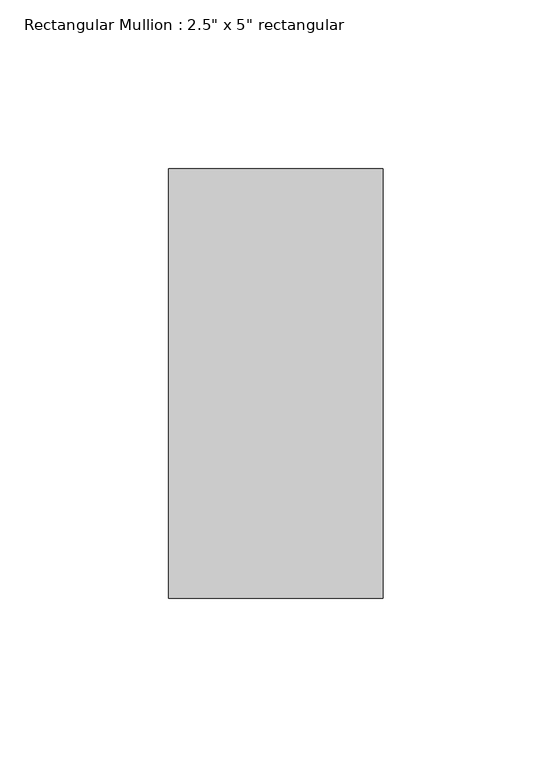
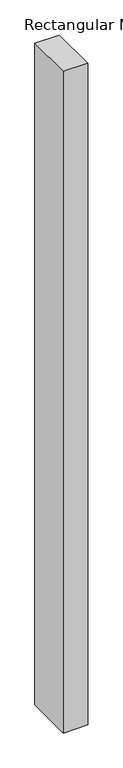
"""IFC4 building model written with IfcOpenShell, lengths in millimetres: member geometry."""

import ifcopenshell
import ifcopenshell.guid

model = None  # the IFC model being written
_history = None  # IfcOwnerHistory: only IFC2X3 demands one
_inside = {}  # id of a spatial element -> (the spatial element, [elements in it])
_under = {}  # id of a project, library or spatial element -> (it, [spatial elements below it])
_declared = {}  # id of a project -> (the project, [libraries it declares])
_typed = {}  # id of a type object -> (the type object, [elements of that type])
_made_of = {}  # id of a material, layer set ... -> (it, [elements and type objects made of it])


def new_model(schema):
    """Start an empty IFC model of exactly this schema.

    Asked for "IFC4X3", IfcOpenShell would pick the latest addendum, in which some entities
    have other attributes; the version numbers below select the first issue.
    IFC2X3 requires an IfcOwnerHistory on every rooted entity: one is made here for all.
    """
    global model, _history
    if schema == "IFC4X3":
        model = ifcopenshell.file(schema_version=(4, 3, 0, 0))
    else:
        model = ifcopenshell.file(schema=schema)
    _inside.clear()
    _under.clear()
    _declared.clear()
    _typed.clear()
    _made_of.clear()
    _history = None
    if model.schema == "IFC2X3":
        org = make("IfcOrganization", Name="unknown")
        user = make(
            "IfcPersonAndOrganization",
            ThePerson=make("IfcPerson", FamilyName="unknown"),
            TheOrganization=org,
        )
        app = make(
            "IfcApplication",
            ApplicationDeveloper=org,
            Version="unknown",
            ApplicationFullName="unknown",
            ApplicationIdentifier="unknown",
        )
        _history = make(
            "IfcOwnerHistory",
            OwningUser=user,
            OwningApplication=app,
            ChangeAction="ADDED",
            CreationDate=0,
        )
    return model


def make(cls, **values):
    """One entity of the class cls with the attributes given. An attribute that is None is left unset."""
    return model.create_entity(
        cls, **{name: value for name, value in values.items() if value is not None}
    )


def rooted(cls, **values):
    """An entity with a GlobalId (a new one), such as an element, a storey or a relation."""
    return make(cls, GlobalId=ifcopenshell.guid.new(), OwnerHistory=_history, **values)


def si_unit(unit_type, name, prefix=None):
    """IfcSIUnit, for example si_unit("LENGTHUNIT", "METRE", prefix="MILLI")."""
    return make("IfcSIUnit", UnitType=unit_type, Prefix=prefix, Name=name)


def assignment(units):
    """IfcUnitAssignment: the units of a project."""
    return None if units is None else make("IfcUnitAssignment", Units=units)


def point(xyz):
    """IfcCartesianPoint."""
    return None if xyz is None else make("IfcCartesianPoint", Coordinates=xyz)


def direction(xyz):
    """IfcDirection."""
    return None if xyz is None else make("IfcDirection", DirectionRatios=xyz)


def frame(location, z_axis=None, x_axis=None):
    """IfcAxis2Placement3D, a coordinate frame: its origin and axes. An axis left out is left unset."""
    return make(
        "IfcAxis2Placement3D",
        Location=point(location),
        Axis=direction(z_axis),
        RefDirection=direction(x_axis),
    )


def origin():
    """The frame at (0, 0, 0) with its axes left unset."""
    return frame((0.0, 0.0, 0.0))


def place(relative_to, where):
    """IfcLocalPlacement: puts the frame where relative to a parent placement (None: the world)."""
    return make(
        "IfcLocalPlacement", PlacementRelTo=relative_to, RelativePlacement=where
    )


def context(
    kind, dimensions, precision=None, world=None, true_north=None, identifier=None
):
    """IfcGeometricRepresentationContext, for example the 3D "Model" context."""
    return make(
        "IfcGeometricRepresentationContext",
        ContextIdentifier=identifier,
        ContextType=kind,
        CoordinateSpaceDimension=dimensions,
        Precision=precision,
        WorldCoordinateSystem=world,
        TrueNorth=true_north,
    )


def project(units=None, contexts=None):
    """IfcProject with its units and contexts."""
    return rooted(
        "IfcProject",
        Name="project",
        RepresentationContexts=contexts,
        UnitsInContext=assignment(units),
    )


def spatial(cls, under=None, at=None, **own):
    """A site, building, storey or space (cls), placed at a placement, below another one or the project."""
    s = rooted(cls, ObjectPlacement=at, **own)
    if under is not None:
        _under.setdefault(under.id(), (under, []))[1].append(s)
    return s


def polyline(points):
    """IfcPolyline through the points."""
    return make("IfcPolyline", Points=[point(p) for p in points])


def outline(outer, holes=None, kind="AREA"):
    """IfcArbitraryClosedProfileDef: a profile drawn as a closed curve; with holes, ...WithVoids."""
    if holes is None:
        return make("IfcArbitraryClosedProfileDef", ProfileType=kind, OuterCurve=outer)
    return make(
        "IfcArbitraryProfileDefWithVoids",
        ProfileType=kind,
        OuterCurve=outer,
        InnerCurves=holes,
    )


def extrude(swept, where, along, depth):
    """IfcExtrudedAreaSolid: the profile swept, set in the frame where, extruded along a direction by depth."""
    return make(
        "IfcExtrudedAreaSolid",
        SweptArea=swept,
        Position=where,
        ExtrudedDirection=direction(along),
        Depth=depth,
    )


def shape(context_of_items, identifier, shape_type, items):
    """IfcShapeRepresentation: the items that make up one representation, for example the "Body"."""
    return make(
        "IfcShapeRepresentation",
        ContextOfItems=context_of_items,
        RepresentationIdentifier=identifier,
        RepresentationType=shape_type,
        Items=items,
    )


def source(mapping_origin, context_of_items, identifier, shape_type, items):
    """IfcRepresentationMap: a shape defined once, which mapped items show again and again."""
    return make(
        "IfcRepresentationMap",
        MappingOrigin=mapping_origin,
        MappedRepresentation=shape(context_of_items, identifier, shape_type, items),
    )


def transform(
    local_origin,
    x_axis=None,
    y_axis=None,
    z_axis=None,
    scale=None,
    scale2=None,
    scale3=None,
    uniform=True,
):
    """IfcCartesianTransformationOperator3D, or its non-uniform kind. x_axis, y_axis, z_axis: its Axis1, 2, 3."""
    if uniform:
        return make(
            "IfcCartesianTransformationOperator3D",
            Axis1=direction(x_axis),
            Axis2=direction(y_axis),
            LocalOrigin=point(local_origin),
            Scale=scale,
            Axis3=direction(z_axis),
        )
    return make(
        "IfcCartesianTransformationOperator3DnonUniform",
        Axis1=direction(x_axis),
        Axis2=direction(y_axis),
        LocalOrigin=point(local_origin),
        Scale=scale,
        Axis3=direction(z_axis),
        Scale2=scale2,
        Scale3=scale3,
    )


def mapped(mapping_source, mapping_target):
    """IfcMappedItem: shows the shape of a source again, moved by a transform."""
    return make(
        "IfcMappedItem", MappingSource=mapping_source, MappingTarget=mapping_target
    )


def made_of(thing, what):
    """Note that an element or type object is made of a material, layer set ...; save() writes the relation."""
    if what is not None:
        _made_of.setdefault(what.id(), (what, []))[1].append(thing)
    return thing


def element(
    cls,
    number,
    at=None,
    inside=None,
    cuts=None,
    type_object=None,
    material=None,
    context=None,
    identifier="Body",
    shape_type=None,
    held_by="IfcProductDefinitionShape",
    body=None,
    shapes=None,
    **own,
):
    """One element of the class cls, such as IfcWall. Its Tag is "e" and its number.

    at: its placement. inside: the storey or other place that contains it. cuts: it is an
    opening in that element (IfcRelVoidsElement). A single representation is given by context,
    identifier, shape_type and body (its items); several are given by shapes. held_by: the class
    of the entity that holds the representations. save() writes the other relations.
    """
    e = rooted(cls, Tag="e%d" % number, ObjectPlacement=at, **own)
    if body is not None:
        shapes = [shape(context, identifier, shape_type, body)]
    if shapes is not None:
        e.Representation = make(held_by, Representations=shapes)
    if inside is not None:
        _inside.setdefault(inside.id(), (inside, []))[1].append(e)
    if cuts is not None:
        rooted(
            "IfcRelVoidsElement", RelatingBuildingElement=cuts, RelatedOpeningElement=e
        )
    if type_object is not None:
        _typed.setdefault(type_object.id(), (type_object, []))[1].append(e)
    return made_of(e, material)


def aggregate(whole, parts):
    """IfcRelAggregates: a whole, such as a stair, and the parts it consists of."""
    return rooted("IfcRelAggregates", RelatingObject=whole, RelatedObjects=parts)


def save(model, path):
    """Write the relations noted so far, then the file.

    IfcRelAggregates (storeys below a building ...), IfcRelContainedInSpatialStructure (elements
    in a storey), IfcRelDefinesByType, IfcRelAssociatesMaterial and IfcRelDeclares: one each for
    every whole, place, type object, material and project.
    """
    for whole, parts in _under.values():
        aggregate(whole, parts)
    for where, things in _inside.values():
        rooted(
            "IfcRelContainedInSpatialStructure",
            RelatedElements=things,
            RelatingStructure=where,
        )
    for kind, things in _typed.values():
        rooted("IfcRelDefinesByType", RelatedObjects=things, RelatingType=kind)
    for what, things in _made_of.values():
        rooted("IfcRelAssociatesMaterial", RelatedObjects=things, RelatingMaterial=what)
    for by, libraries in _declared.values():
        rooted("IfcRelDeclares", RelatingContext=by, RelatedDefinitions=libraries)
    model.write(path)


def member_d5828eb2(model_context):
    return source(origin(), model_context, "Body", "SweptSolid", [
        extrude(outline(polyline([(0.0, 0.0), (1.3014075, -63.5), (-1813.5133736, -63.5), (-1813.1040178, 0.0), (0.0, 0.0)])), frame((0.0, -63.5, 0.0), z_axis=(0.0, 1.0, 0.0), x_axis=(0.0, 0.0, 1.0)), (0.0, 0.0, 1.0), 127.0),
    ])


if __name__ == "__main__":
    model = new_model("IFC4")
    model_context = context("Model", 3, world=origin())
    ifc_project = project(units=[si_unit("LENGTHUNIT", "METRE", prefix="MILLI")], contexts=[model_context])
    site = spatial("IfcSite", under=ifc_project)
    building = spatial("IfcBuilding", under=site)
    placement = place(None, origin())
    member_shape = member_d5828eb2(model_context)
    element("IfcMember", 1, ObjectType="Rectangular Mullion : 2.5\" x 5\" rectangular", at=placement, inside=building, context=model_context, shape_type="MappedRepresentation", body=[
        mapped(member_shape, transform((0.0, 0.0, 0.0), x_axis=(1.0, 0.0, 0.0), y_axis=(0.0, 1.0, 0.0), z_axis=(0.0, 0.0, 1.0))),
    ])
    save(model, "model.ifc")
